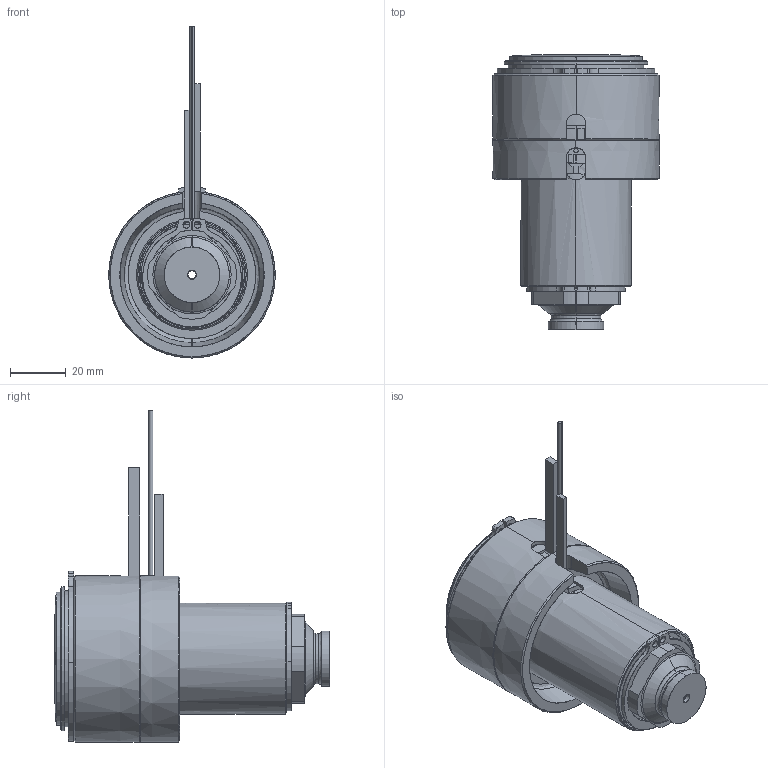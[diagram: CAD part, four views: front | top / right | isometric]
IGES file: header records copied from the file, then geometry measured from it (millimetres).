
Start section: SolidWorks IGES file using analytic representation for surfaces
Global section: file name: C:\Documents and Settings\ws-20\Desktop\TEM\UGER6602-M-A-0 [Øb-2.9 P-0 ØC-17].IGS; native system: SolidWorks 2012; preprocessor: SolidWorks 2012; author: ws-20; date: 120417.135023; units: millimetre
Bounding box: 60 x 99.25 x 119.65 mm (x, y, z)
Surface area: 59423.2 mm2 (no closed solid volume)
Topology: 0 solids, 0 shells, 168 faces, 3334 edges, 3334 vertices
Faces by surface type: revolution 98, bspline 70
